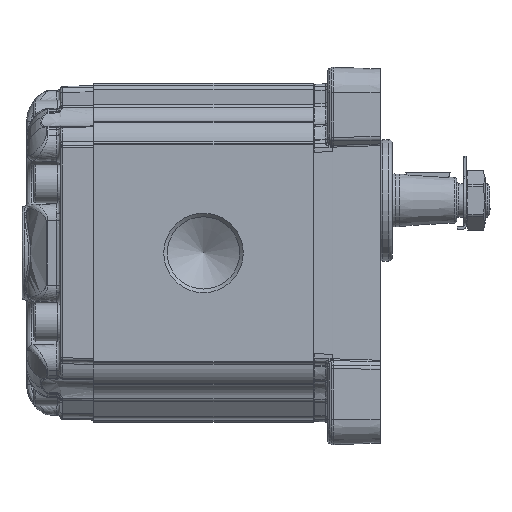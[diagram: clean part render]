
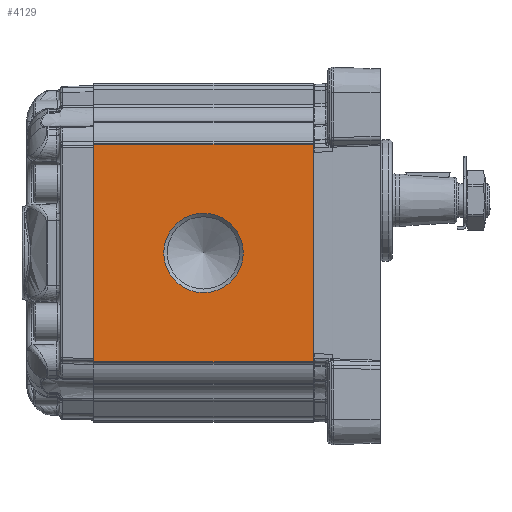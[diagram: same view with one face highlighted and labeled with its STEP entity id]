
A CAD part, left-side view. The second image highlights one B-rep face of the part: STEP entity #4129.
In plain terms, the highlighted planar face has unit normal (-1, 0, 0).
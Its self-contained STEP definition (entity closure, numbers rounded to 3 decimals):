
#4129 = ADVANCED_FACE( '', ( #10584, #10585 ), #10586, .T. );
#10584 = FACE_BOUND( '', #26176, .T. );
#10585 = FACE_OUTER_BOUND( '', #26177, .T. );
#10586 = PLANE( '', #26178 );
#26176 = EDGE_LOOP( '', ( #59739 ) );
#26177 = EDGE_LOOP( '', ( #59740, #59741, #59742, #59743 ) );
#26178 = AXIS2_PLACEMENT_3D( '', #59744, #59745, #59746 );
#59739 = ORIENTED_EDGE( '', *, *, #81613, .T. );
#59740 = ORIENTED_EDGE( '', *, *, #81614, .F. );
#59741 = ORIENTED_EDGE( '', *, *, #81615, .T. );
#59742 = ORIENTED_EDGE( '', *, *, #81616, .F. );
#59743 = ORIENTED_EDGE( '', *, *, #81617, .T. );
#59744 = CARTESIAN_POINT( '', ( -57.5, -138.655, -84.819 ) );
#59745 = DIRECTION( '', ( -1., 0., 0. ) );
#59746 = DIRECTION( '', ( 0., 0., -1. ) );
#81613 = EDGE_CURVE( '', #94076, #94076, #94077, .F. );
#81614 = EDGE_CURVE( '', #94078, #94079, #94080, .T. );
#81615 = EDGE_CURVE( '', #94078, #94081, #94082, .F. );
#81616 = EDGE_CURVE( '', #94083, #94081, #94084, .T. );
#81617 = EDGE_CURVE( '', #94083, #94079, #94085, .F. );
#94076 = VERTEX_POINT( '', #118738 );
#94077 = CIRCLE( '', #118739, 16.646 );
#94078 = VERTEX_POINT( '', #118740 );
#94079 = VERTEX_POINT( '', #118741 );
#94080 = LINE( '', #118742, #118743 );
#94081 = VERTEX_POINT( '', #118744 );
#94082 = LINE( '', #118745, #118746 );
#94083 = VERTEX_POINT( '', #118747 );
#94084 = LINE( '', #118748, #118749 );
#94085 = LINE( '', #118750, #118751 );
#118738 = CARTESIAN_POINT( '', ( -57.5, 46., -16.646 ) );
#118739 = AXIS2_PLACEMENT_3D( '', #144656, #144657, #144658 );
#118740 = CARTESIAN_POINT( '', ( -57.5, 92., -45.5 ) );
#118741 = CARTESIAN_POINT( '', ( -57.5, 92., 45.5 ) );
#118742 = CARTESIAN_POINT( '', ( -57.5, 92., -84.819 ) );
#118743 = VECTOR( '', #144659, 1000. );
#118744 = CARTESIAN_POINT( '', ( -57.5, 0., -45.5 ) );
#118745 = CARTESIAN_POINT( '', ( -57.5, -138.655, -45.5 ) );
#118746 = VECTOR( '', #144660, 1000. );
#118747 = CARTESIAN_POINT( '', ( -57.5, 0., 45.5 ) );
#118748 = CARTESIAN_POINT( '', ( -57.5, 0., -44.978 ) );
#118749 = VECTOR( '', #144661, 1000. );
#118750 = CARTESIAN_POINT( '', ( -57.5, -138.655, 45.5 ) );
#118751 = VECTOR( '', #144662, 1000. );
#144656 = CARTESIAN_POINT( '', ( -57.5, 46., 0. ) );
#144657 = DIRECTION( '', ( -1., 0., 0. ) );
#144658 = DIRECTION( '', ( 0., 0., -1. ) );
#144659 = DIRECTION( '', ( 0., 0., 1. ) );
#144660 = DIRECTION( '', ( 0., 1., 0. ) );
#144661 = DIRECTION( '', ( 0., 0., -1. ) );
#144662 = DIRECTION( '', ( 0., -1., 0. ) );
